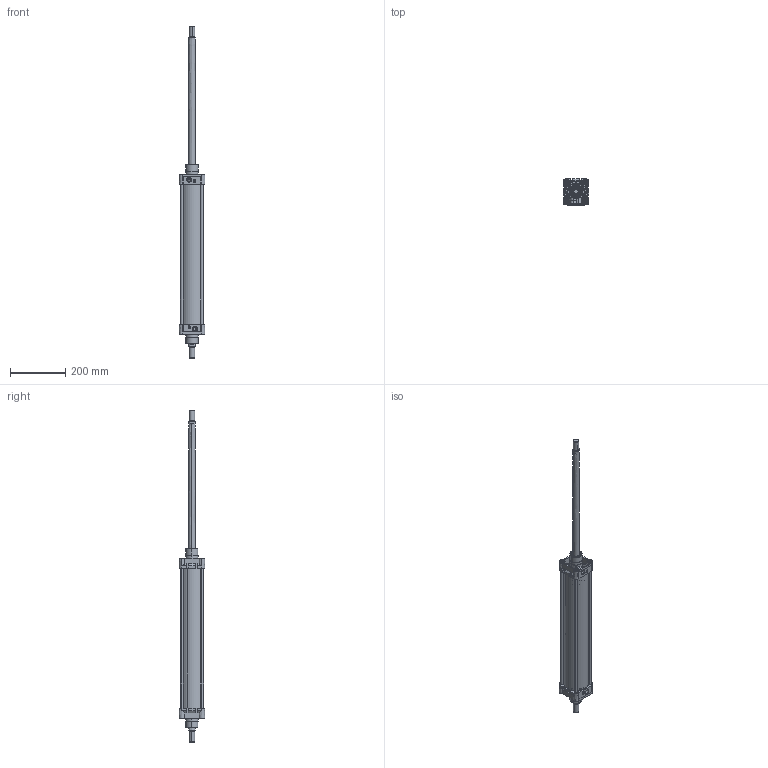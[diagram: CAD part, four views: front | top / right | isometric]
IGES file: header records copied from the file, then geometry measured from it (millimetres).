
Start section: SolidWorks IGES file using analytic representation for surfaces
Global section: file name: D:\ARICA 3D 禽Z軲LER\3D IGES\TDNC 禽FT M軱L輁TDNC80\TDNC80X450CIFTMILLI-CYLINDER.IGS; native system: SolidWorks 2013; preprocessor: SolidWorks 2013; author: user; date: 150328.132310; units: millimetre
Bounding box: 93 x 93.3 x 1200 mm (x, y, z)
Surface area: 649016.8 mm2 (no closed solid volume)
Topology: 0 solids, 0 shells, 1324 faces, 20620 edges, 20608 vertices
Faces by surface type: revolution 712, bspline 612
